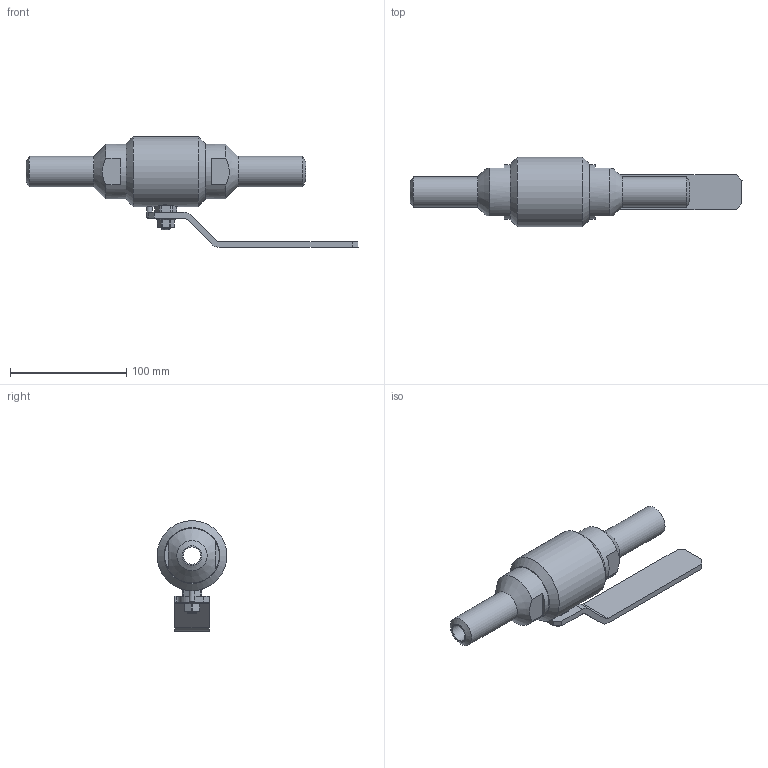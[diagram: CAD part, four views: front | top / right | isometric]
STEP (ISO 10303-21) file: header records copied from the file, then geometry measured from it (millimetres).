
FILE_DESCRIPTION(('STEP AP203'), '1');
FILE_NAME('ZARDP 015.250.40.P.stp', '2013-12-05T09:28:31', ('Øèøêî'), ('ýíåðïðåä ÿðäîñ'), 'ASCON STEP Converter 1.3', 'Kompas 3D', '');
FILE_SCHEMA(('CONFIG_CONTROL_DESIGN','SUPPORT_RESOURCE_SCHEMA'));
Length unit declared in the file: millimetre
Products named in the file (1): 115
Bounding box: 285 x 60 x 95 mm (x, y, z)
Volume: 294502.2 mm3; surface area: 61947.3 mm2
Topology: 1 solids, 4 shells, 144 faces, 332 edges, 207 vertices
Faces by surface type: plane 82, cylinder 41, cone 20, torus 1
Full cylindrical faces by diameter (mm): 5 x2, 8 x1, 10.7 x1, 10.917 x1, 12 x1, 12.1 x1, 15 x2, 19.8 x1, 20 x2, 26 x2, 38.4 x1, 47 x2, 60 x1
Entity records: 5120 total; most frequent: CARTESIAN_POINT 1697, DIRECTION 732, ORIENTED_EDGE 664, EDGE_CURVE 332, AXIS2_PLACEMENT_3D 279, VERTEX_POINT 207, LINE 174, VECTOR 174
